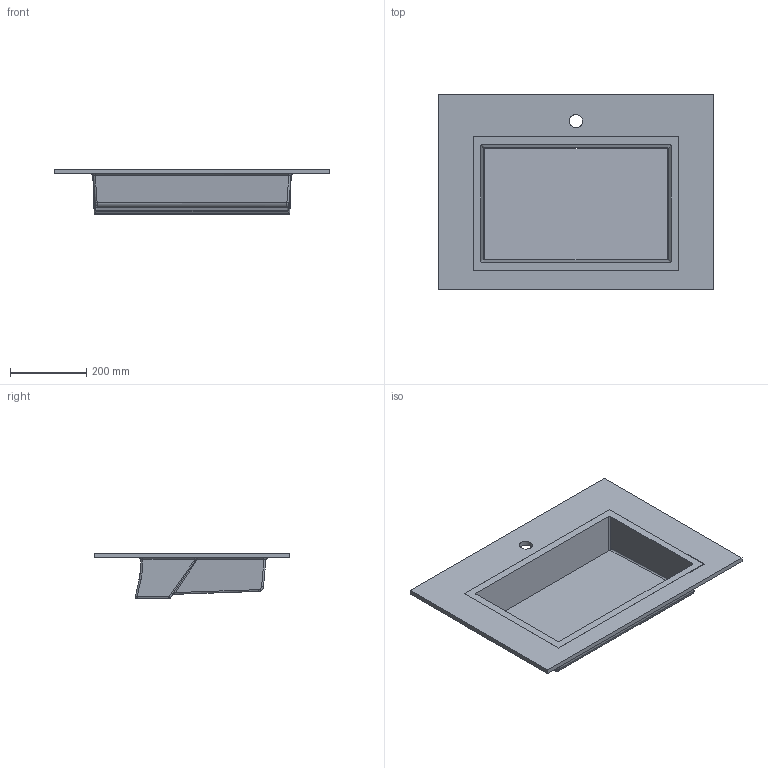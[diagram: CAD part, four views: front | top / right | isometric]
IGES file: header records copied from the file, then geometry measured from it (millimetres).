
Start section: Data from Parasolid IGES Translator 19.0.9, Copyright(c) 2006 Siemens PL M Software. All Rights Reserved.
Global section: file name: noorth-top-H 1,2 D 51,3 W 72_6530.igs; native system: By Siemens PLM Incorporated; preprocessor: XPlus GENERIC/IGES 19.0.9; author: Noname; organization: Noname; date: 20200603.094057; units: metre
Bounding box: 720 x 512 x 118.64 mm (x, y, z)
Volume: 6279521.5 mm3; surface area: 1112177.7 mm2
Topology: 2 solids, 2 shells, 93 faces, 223 edges, 130 vertices
Faces by surface type: plane 37, bspline 29, cylinder 27
Full cylindrical faces by diameter (mm): 34.9 x1
